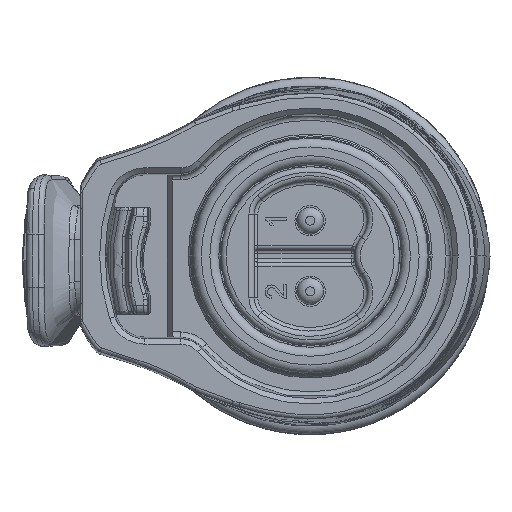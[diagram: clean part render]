
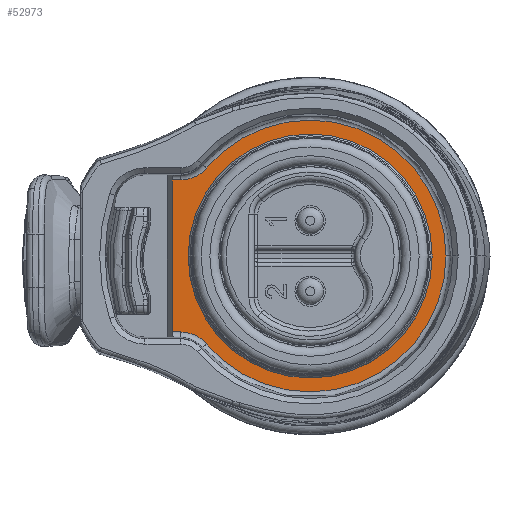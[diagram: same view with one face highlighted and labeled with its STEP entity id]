
A CAD part, left-side view. The second image highlights one B-rep face of the part: STEP entity #52973.
In plain terms, the highlighted planar face has unit normal (-1, 0, 0).
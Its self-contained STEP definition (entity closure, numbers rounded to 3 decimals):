
#989 = VERTEX_POINT ( 'NONE', #23496 ) ;
#5668 = DIRECTION ( 'NONE',  ( 0., 1., 0. ) ) ;
#6804 = VERTEX_POINT ( 'NONE', #18318 ) ;
#7708 = DIRECTION ( 'NONE',  ( 0., 0., -1. ) ) ;
#8652 = EDGE_LOOP ( 'NONE', ( #59403 ) ) ;
#10708 = CARTESIAN_POINT ( 'NONE',  ( 8.609, 7.241, -4.252 ) ) ;
#11794 = AXIS2_PLACEMENT_3D ( 'NONE', #100781, #68100, #61932 ) ;
#12548 = CARTESIAN_POINT ( 'NONE',  ( 8.609, 7.703, -4.252 ) ) ;
#14711 = CARTESIAN_POINT ( 'NONE',  ( 8.609, 0., 0. ) ) ;
#14938 = ORIENTED_EDGE ( 'NONE', *, *, #39768, .T. ) ;
#15378 = CARTESIAN_POINT ( 'NONE',  ( 8.609, 0., 0. ) ) ;
#18318 = CARTESIAN_POINT ( 'NONE',  ( 8.609, 7.241, 4.253 ) ) ;
#23177 = CIRCLE ( 'NONE', #90135, 6.76 ) ;
#23496 = CARTESIAN_POINT ( 'NONE',  ( 8.609, -7.603, 0. ) ) ;
#25879 = VERTEX_POINT ( 'NONE', #69044 ) ;
#26555 = DIRECTION ( 'NONE',  ( 0., -1., 0. ) ) ;
#27313 = CARTESIAN_POINT ( 'NONE',  ( 8.609, 0., 0. ) ) ;
#30182 = AXIS2_PLACEMENT_3D ( 'NONE', #87129, #49300, #48289 ) ;
#30832 = EDGE_CURVE ( 'NONE', #80823, #56712, #57728, .T. ) ;
#31009 = FACE_OUTER_BOUND ( 'NONE', #64294, .T. ) ;
#31478 = ORIENTED_EDGE ( 'NONE', *, *, #93917, .T. ) ;
#33217 = CIRCLE ( 'NONE', #96931, 7.603 ) ;
#35446 = CARTESIAN_POINT ( 'NONE',  ( 8.609, 5.795, 4.922 ) ) ;
#38293 = ORIENTED_EDGE ( 'NONE', *, *, #71285, .T. ) ;
#39768 = EDGE_CURVE ( 'NONE', #56712, #45279, #57915, .T. ) ;
#41147 = DIRECTION ( 'NONE',  ( 0., 0., 1. ) ) ;
#41559 = EDGE_CURVE ( 'NONE', #6804, #25879, #66440, .T. ) ;
#45279 = VERTEX_POINT ( 'NONE', #92626 ) ;
#48289 = DIRECTION ( 'NONE',  ( 0., 0., -1. ) ) ;
#49300 = DIRECTION ( 'NONE',  ( 1., 0., 0. ) ) ;
#49531 = ORIENTED_EDGE ( 'NONE', *, *, #68890, .T. ) ;
#50051 = CARTESIAN_POINT ( 'NONE',  ( 8.609, 7.241, -4.252 ) ) ;
#52537 = VECTOR ( 'NONE', #26555, 1000. ) ;
#52973 = ADVANCED_FACE ( 'NONE', ( #75507, #31009 ), #78019, .T. ) ;
#54182 = CIRCLE ( 'NONE', #11794, 1.897 ) ;
#56259 = ORIENTED_EDGE ( 'NONE', *, *, #41559, .T. ) ;
#56712 = VERTEX_POINT ( 'NONE', #10708 ) ;
#57728 = LINE ( 'NONE', #50051, #52537 ) ;
#57915 = CIRCLE ( 'NONE', #30182, 1.897 ) ;
#58118 = VERTEX_POINT ( 'NONE', #35446 ) ;
#59403 = ORIENTED_EDGE ( 'NONE', *, *, #81709, .F. ) ;
#60268 = CARTESIAN_POINT ( 'NONE',  ( 8.609, 7.599, 4.253 ) ) ;
#60473 = ORIENTED_EDGE ( 'NONE', *, *, #30832, .T. ) ;
#61900 = DIRECTION ( 'NONE',  ( 0., 0., -1. ) ) ;
#61932 = DIRECTION ( 'NONE',  ( 0., 0., -1. ) ) ;
#64294 = EDGE_LOOP ( 'NONE', ( #92136, #60473, #14938, #31478, #49531, #38293, #56259 ) ) ;
#65890 = VERTEX_POINT ( 'NONE', #66387 ) ;
#66387 = CARTESIAN_POINT ( 'NONE',  ( 8.609, 0., 6.76 ) ) ;
#66440 = LINE ( 'NONE', #60268, #69155 ) ;
#68100 = DIRECTION ( 'NONE',  ( 1., 0., 0. ) ) ;
#68890 = EDGE_CURVE ( 'NONE', #989, #58118, #86819, .T. ) ;
#69044 = CARTESIAN_POINT ( 'NONE',  ( 8.609, 7.703, 4.253 ) ) ;
#69155 = VECTOR ( 'NONE', #5668, 1000. ) ;
#69937 = EDGE_CURVE ( 'NONE', #80823, #25879, #76003, .T. ) ;
#70063 = AXIS2_PLACEMENT_3D ( 'NONE', #14711, #93350, #100046 ) ;
#71285 = EDGE_CURVE ( 'NONE', #58118, #6804, #54182, .T. ) ;
#73780 = AXIS2_PLACEMENT_3D ( 'NONE', #84898, #100750, #61900 ) ;
#74975 = DIRECTION ( 'NONE',  ( 0., 0., 1. ) ) ;
#75507 = FACE_BOUND ( 'NONE', #8652, .T. ) ;
#76003 = LINE ( 'NONE', #82643, #86750 ) ;
#78019 = PLANE ( 'NONE',  #70063 ) ;
#78683 = DIRECTION ( 'NONE',  ( -1., 0., 0. ) ) ;
#80823 = VERTEX_POINT ( 'NONE', #12548 ) ;
#80987 = DIRECTION ( 'NONE',  ( -1., 0., 0. ) ) ;
#81709 = EDGE_CURVE ( 'NONE', #65890, #65890, #23177, .T. ) ;
#82643 = CARTESIAN_POINT ( 'NONE',  ( 8.609, 7.703, 0.001 ) ) ;
#84898 = CARTESIAN_POINT ( 'NONE',  ( 8.609, 0., 0.001 ) ) ;
#86750 = VECTOR ( 'NONE', #74975, 1000. ) ;
#86819 = CIRCLE ( 'NONE', #73780, 7.603 ) ;
#87129 = CARTESIAN_POINT ( 'NONE',  ( 8.609, 7.241, -6.15 ) ) ;
#90135 = AXIS2_PLACEMENT_3D ( 'NONE', #27313, #80987, #41147 ) ;
#92136 = ORIENTED_EDGE ( 'NONE', *, *, #69937, .F. ) ;
#92626 = CARTESIAN_POINT ( 'NONE',  ( 8.609, 5.795, -4.921 ) ) ;
#93350 = DIRECTION ( 'NONE',  ( -1., 0., 0. ) ) ;
#93917 = EDGE_CURVE ( 'NONE', #45279, #989, #33217, .T. ) ;
#96931 = AXIS2_PLACEMENT_3D ( 'NONE', #15378, #78683, #7708 ) ;
#100046 = DIRECTION ( 'NONE',  ( 0., 0., 1. ) ) ;
#100750 = DIRECTION ( 'NONE',  ( -1., 0., 0. ) ) ;
#100781 = CARTESIAN_POINT ( 'NONE',  ( 8.609, 7.241, 6.15 ) ) ;
